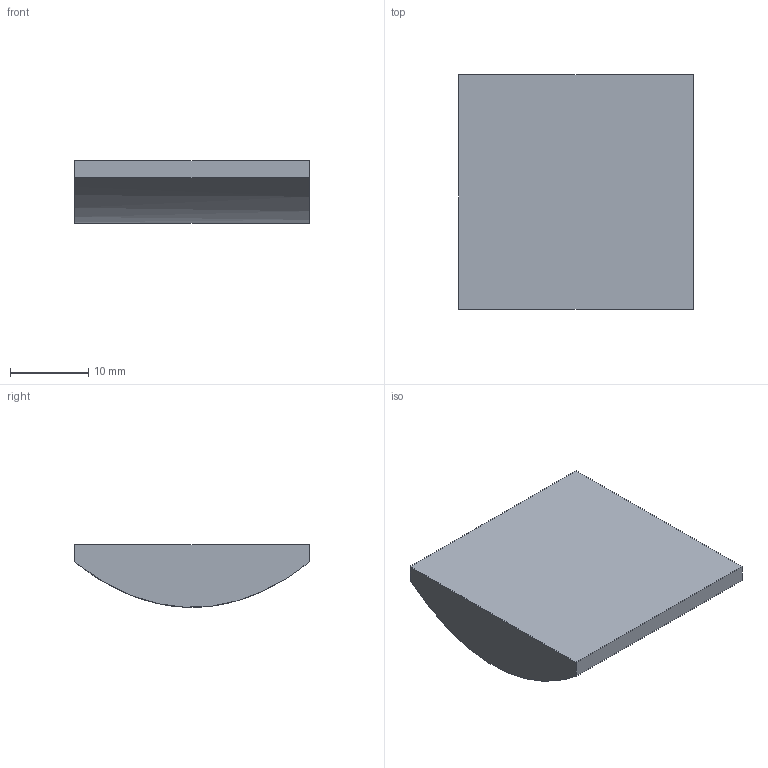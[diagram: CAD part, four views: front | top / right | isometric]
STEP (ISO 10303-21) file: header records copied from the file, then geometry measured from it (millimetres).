
FILE_DESCRIPTION ((), '1');
FILE_NAME ('\\fileserver\Daten\Applikationen\Optikdesign\SPA-Design\aktuelle SPA-Designs\Linsenkataloge - 2016-Juni\Zemax\CHL\CHL30-26.STP', '2016-05-24T14:27:48', ('Unknown'), ('Unknown'), 'HarmonyWare STEP v2.0.1', 'HarmonyWare Translators', '');
FILE_SCHEMA (('CONFIG_CONTROL_DESIGN'));
Length unit declared in the file: millimetre
Products named in the file (1): NONE
Bounding box: 30 x 30 x 7.98 mm (x, y, z)
Volume: 5483.9 mm3; surface area: 2381.3 mm2
Topology: 1 solids, 1 shells, 6 faces, 12 edges, 8 vertices
Faces by surface type: plane 3, bspline 3
Entity records: 394 total; most frequent: CARTESIAN_POINT 211, ORIENTED_EDGE 24, B_SPLINE_CURVE_WITH_KNOTS 12, EDGE_CURVE 12, VERTEX_POINT 8, PERSON 8, ORGANIZATION 8, PERSON_AND_ORGANIZATION 8
